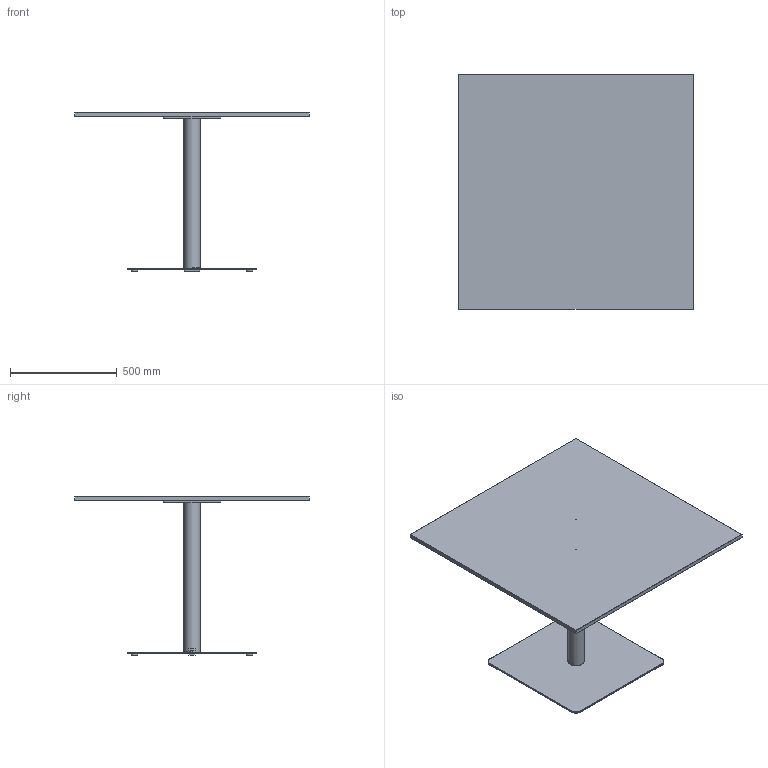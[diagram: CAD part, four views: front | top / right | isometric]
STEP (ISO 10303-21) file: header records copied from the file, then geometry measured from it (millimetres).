
FILE_DESCRIPTION( ('This file contains a STEP AP42 implementation' ,'as created by ZW3D STEP Interface translator.') ,'2;1' );
FILE_NAME( 'Henri - B_Carré - F4 - M1 - 1100 x 1100 x 750.stp' ,'24 912.1725 6', (''), ('ZWCAD Software Co.'), 'Version 1.0', 'ZW3D to STEP translator', '' );
FILE_SCHEMA(('AUTOMOTIVE_DESIGN { 1 0 10303 214 1 1 1 1 }'));
Length unit declared in the file: millimetre
Products named in the file (14): 0; PIED BISTROT PARAMETRIQUE_; COLONNE ACIER Ø76 V.02_; TUB-D076-02_; PLA-R76B-01_; CROIX ACIER 370 V.02_; CRX-X370-02_; SOCLE ACIER L 600x600 V.02_; SCL-R600-02_; PLA-R30A-01_; PLA-R30A-01; WUERTH 0276063020 Euro-screw 6.3x2 Verzinkt_; PLATEAU BISTROT PARAMETRIQUE_; insert_m6_13_
Assembly tree (22 placements, depth 3):
  0
  PIED BISTROT PARAMETRIQUE_
    COLONNE ACIER Ø76 V.02_
      TUB-D076-02_
      PLA-R76B-01_  x2
    CROIX ACIER 370 V.02_
      CRX-X370-02_
    SOCLE ACIER L 600x600 V.02_
      SCL-R600-02_
      PLA-R30A-01_
      PLA-R30A-01  x3
    WUERTH 0276063020 Euro-screw 6.3x2 Verzinkt_
    PLATEAU BISTROT PARAMETRIQUE_
      insert_m6_13_  x8
Bounding box: 1100 x 1100 x 744 mm (x, y, z)
Volume: 28001330.7 mm3; surface area: 3756648.5 mm2
Topology: 19 solids, 19 shells, 537 faces, 1310 edges, 814 vertices
Faces by surface type: plane 262, bspline 129, cylinder 98, cone 47, torus 1
Full cylindrical faces by diameter (mm): 4.88 x1, 6 x8, 6.3 x1, 8 x45, 12 x2, 14 x2, 30 x4, 72 x1, 76 x1
Entity records: 12222 total; most frequent: CARTESIAN_POINT 3436, ORIENTED_EDGE 1608, DIRECTION 1471, EDGE_CURVE 804, VECTOR 513, LINE 513, VERTEX_POINT 510, AXIS2_PLACEMENT_3D 479
